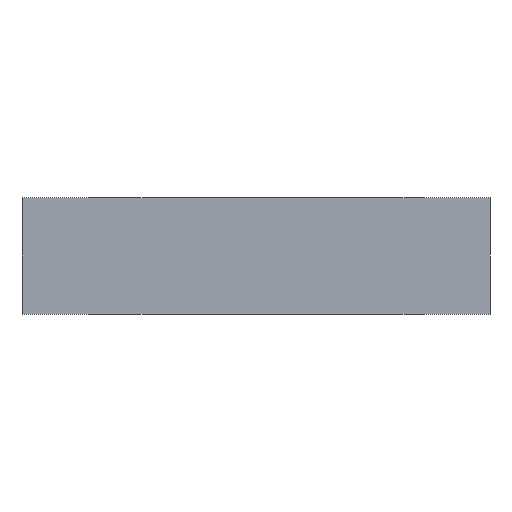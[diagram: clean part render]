
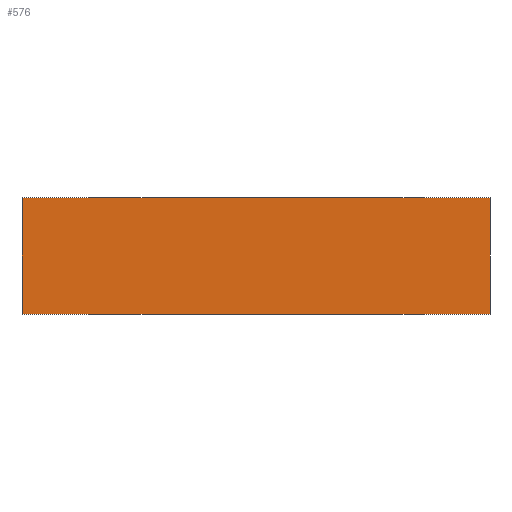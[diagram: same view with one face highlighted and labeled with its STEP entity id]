
A CAD part, front view. The second image highlights one B-rep face of the part: STEP entity #576.
In plain terms, the highlighted planar face has unit normal (0, -1, 0).
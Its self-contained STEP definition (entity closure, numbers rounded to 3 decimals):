
#22 = VERTEX_POINT('',#23);
#23 = CARTESIAN_POINT('',(0.,0.,3.));
#32 = PLANE('',#33);
#33 = AXIS2_PLACEMENT_3D('',#34,#35,#36);
#34 = CARTESIAN_POINT('',(0.,-2.5,0.));
#35 = DIRECTION('',(1.,0.,-0.));
#36 = DIRECTION('',(0.,0.,1.));
#44 = PLANE('',#45);
#45 = AXIS2_PLACEMENT_3D('',#46,#47,#48);
#46 = CARTESIAN_POINT('',(0.,-2.5,3.));
#47 = DIRECTION('',(0.,0.,1.));
#48 = DIRECTION('',(1.,0.,-0.));
#56 = EDGE_CURVE('',#57,#22,#59,.T.);
#57 = VERTEX_POINT('',#58);
#58 = CARTESIAN_POINT('',(0.,0.,0.));
#59 = SURFACE_CURVE('',#60,(#64,#71),.PCURVE_S1.);
#60 = LINE('',#61,#62);
#61 = CARTESIAN_POINT('',(0.,0.,-82.2));
#62 = VECTOR('',#63,1.);
#63 = DIRECTION('',(0.,0.,1.));
#64 = PCURVE('',#32,#65);
#65 = DEFINITIONAL_REPRESENTATION('',(#66),#70);
#66 = LINE('',#67,#68);
#67 = CARTESIAN_POINT('',(-82.2,-2.5));
#68 = VECTOR('',#69,1.);
#69 = DIRECTION('',(1.,0.));
#70 = ( GEOMETRIC_REPRESENTATION_CONTEXT(2) 
PARAMETRIC_REPRESENTATION_CONTEXT() REPRESENTATION_CONTEXT('2D SPACE',''
  ) );
#71 = PCURVE('',#72,#77);
#72 = PLANE('',#73);
#73 = AXIS2_PLACEMENT_3D('',#74,#75,#76);
#74 = CARTESIAN_POINT('',(-594.6,0.,-164.4));
#75 = DIRECTION('',(-0.,1.,0.));
#76 = DIRECTION('',(0.,0.,1.));
#77 = DEFINITIONAL_REPRESENTATION('',(#78),#82);
#78 = LINE('',#79,#80);
#79 = CARTESIAN_POINT('',(82.2,594.6));
#80 = VECTOR('',#81,1.);
#81 = DIRECTION('',(1.,0.));
#82 = ( GEOMETRIC_REPRESENTATION_CONTEXT(2) 
PARAMETRIC_REPRESENTATION_CONTEXT() REPRESENTATION_CONTEXT('2D SPACE',''
  ) );
#100 = PLANE('',#101);
#101 = AXIS2_PLACEMENT_3D('',#102,#103,#104);
#102 = CARTESIAN_POINT('',(0.,-2.5,0.));
#103 = DIRECTION('',(0.,0.,1.));
#104 = DIRECTION('',(1.,0.,-0.));
#142 = EDGE_CURVE('',#143,#22,#145,.T.);
#143 = VERTEX_POINT('',#144);
#144 = CARTESIAN_POINT('',(12.,0.,3.));
#145 = SURFACE_CURVE('',#146,(#150,#157),.PCURVE_S1.);
#146 = LINE('',#147,#148);
#147 = CARTESIAN_POINT('',(-297.3,0.,3.));
#148 = VECTOR('',#149,1.);
#149 = DIRECTION('',(-1.,-0.,0.));
#150 = PCURVE('',#44,#151);
#151 = DEFINITIONAL_REPRESENTATION('',(#152),#156);
#152 = LINE('',#153,#154);
#153 = CARTESIAN_POINT('',(-297.3,2.5));
#154 = VECTOR('',#155,1.);
#155 = DIRECTION('',(-1.,0.));
#156 = ( GEOMETRIC_REPRESENTATION_CONTEXT(2) 
PARAMETRIC_REPRESENTATION_CONTEXT() REPRESENTATION_CONTEXT('2D SPACE',''
  ) );
#157 = PCURVE('',#72,#158);
#158 = DEFINITIONAL_REPRESENTATION('',(#159),#163);
#159 = LINE('',#160,#161);
#160 = CARTESIAN_POINT('',(167.4,297.3));
#161 = VECTOR('',#162,1.);
#162 = DIRECTION('',(0.,-1.));
#163 = ( GEOMETRIC_REPRESENTATION_CONTEXT(2) 
PARAMETRIC_REPRESENTATION_CONTEXT() REPRESENTATION_CONTEXT('2D SPACE',''
  ) );
#181 = PLANE('',#182);
#182 = AXIS2_PLACEMENT_3D('',#183,#184,#185);
#183 = CARTESIAN_POINT('',(12.,-2.5,0.));
#184 = DIRECTION('',(1.,0.,-0.));
#185 = DIRECTION('',(0.,0.,1.));
#412 = EDGE_CURVE('',#413,#57,#415,.T.);
#413 = VERTEX_POINT('',#414);
#414 = CARTESIAN_POINT('',(12.,0.,0.));
#415 = SURFACE_CURVE('',#416,(#420,#427),.PCURVE_S1.);
#416 = LINE('',#417,#418);
#417 = CARTESIAN_POINT('',(-297.3,0.,0.));
#418 = VECTOR('',#419,1.);
#419 = DIRECTION('',(-1.,-0.,0.));
#420 = PCURVE('',#100,#421);
#421 = DEFINITIONAL_REPRESENTATION('',(#422),#426);
#422 = LINE('',#423,#424);
#423 = CARTESIAN_POINT('',(-297.3,2.5));
#424 = VECTOR('',#425,1.);
#425 = DIRECTION('',(-1.,0.));
#426 = ( GEOMETRIC_REPRESENTATION_CONTEXT(2) 
PARAMETRIC_REPRESENTATION_CONTEXT() REPRESENTATION_CONTEXT('2D SPACE',''
  ) );
#427 = PCURVE('',#72,#428);
#428 = DEFINITIONAL_REPRESENTATION('',(#429),#433);
#429 = LINE('',#430,#431);
#430 = CARTESIAN_POINT('',(164.4,297.3));
#431 = VECTOR('',#432,1.);
#432 = DIRECTION('',(0.,-1.));
#433 = ( GEOMETRIC_REPRESENTATION_CONTEXT(2) 
PARAMETRIC_REPRESENTATION_CONTEXT() REPRESENTATION_CONTEXT('2D SPACE',''
  ) );
#576 = ADVANCED_FACE('',(#577),#72,.F.);
#577 = FACE_BOUND('',#578,.F.);
#578 = EDGE_LOOP('',(#579,#580,#581,#582));
#579 = ORIENTED_EDGE('',*,*,#412,.T.);
#580 = ORIENTED_EDGE('',*,*,#56,.T.);
#581 = ORIENTED_EDGE('',*,*,#142,.F.);
#582 = ORIENTED_EDGE('',*,*,#583,.F.);
#583 = EDGE_CURVE('',#413,#143,#584,.T.);
#584 = SURFACE_CURVE('',#585,(#589,#596),.PCURVE_S1.);
#585 = LINE('',#586,#587);
#586 = CARTESIAN_POINT('',(12.,0.,-82.2));
#587 = VECTOR('',#588,1.);
#588 = DIRECTION('',(0.,0.,1.));
#589 = PCURVE('',#72,#590);
#590 = DEFINITIONAL_REPRESENTATION('',(#591),#595);
#591 = LINE('',#592,#593);
#592 = CARTESIAN_POINT('',(82.2,606.6));
#593 = VECTOR('',#594,1.);
#594 = DIRECTION('',(1.,0.));
#595 = ( GEOMETRIC_REPRESENTATION_CONTEXT(2) 
PARAMETRIC_REPRESENTATION_CONTEXT() REPRESENTATION_CONTEXT('2D SPACE',''
  ) );
#596 = PCURVE('',#181,#597);
#597 = DEFINITIONAL_REPRESENTATION('',(#598),#602);
#598 = LINE('',#599,#600);
#599 = CARTESIAN_POINT('',(-82.2,-2.5));
#600 = VECTOR('',#601,1.);
#601 = DIRECTION('',(1.,0.));
#602 = ( GEOMETRIC_REPRESENTATION_CONTEXT(2) 
PARAMETRIC_REPRESENTATION_CONTEXT() REPRESENTATION_CONTEXT('2D SPACE',''
  ) );
